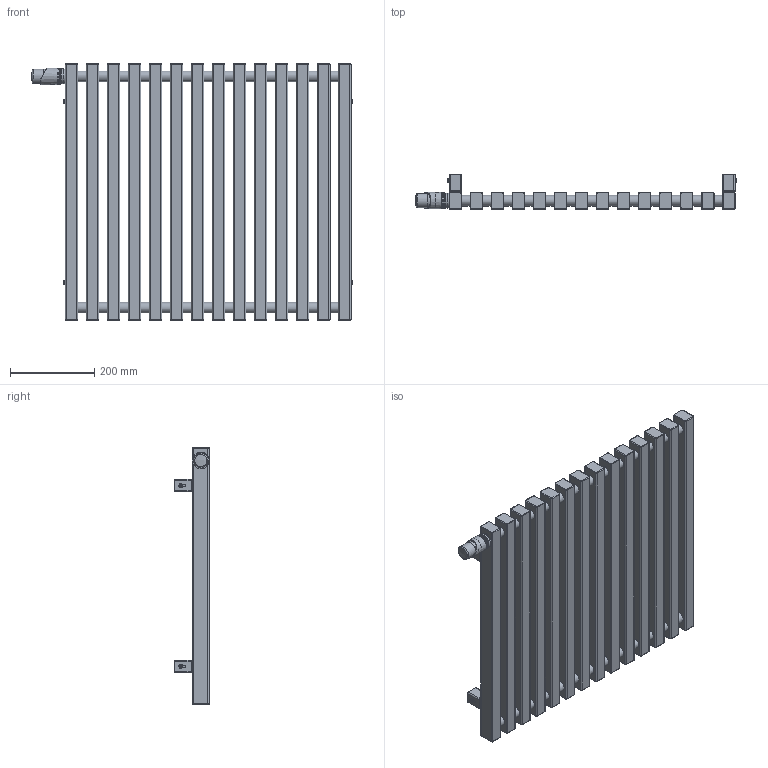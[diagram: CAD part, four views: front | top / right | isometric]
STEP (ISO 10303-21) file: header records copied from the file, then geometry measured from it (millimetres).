
FILE_DESCRIPTION((''),'2;1');
FILE_NAME('Z:\R\G\P\RGP029 - Grzejnik Triga ( ZET)\Work\Inventor\Triga v1.1\Marketing\AutoCad 3D\G-TR-XX-MK-XX-61-68-VL.stp','2012-07-26T13:31:58',('DawPi'),(''),'Autodesk Inventor 2012','Autodesk Inventor 2012','');
FILE_SCHEMA(('AUTOMOTIVE_DESIGN { 1 0 10303 214 1 1 1 1 }'));
Length unit declared in the file: millimetre
Products named in the file (4): G-TR-XX-MK-XX-61-68-VL; MMT42; A40300A
Assembly tree (6 placements, depth 2):
  G-TR-XX-MK-XX-61-68-VL
    G-TR-XX-MK-XX-61-68-VL
    MMT42  x4
    A40300A
Bounding box: 762.26 x 82 x 610 mm (x, y, z)
Volume: 10651623.1 mm3; surface area: 1251576.6 mm2
Topology: 6 solids, 7 shells, 657 faces, 1454 edges, 879 vertices
Faces by surface type: cylinder 273, plane 231, bspline 113, cone 25, torus 14, sphere 1
Full cylindrical faces by diameter (mm): 4 x1, 4.134 x4, 4.509 x4, 5 x1, 10 x5, 11.445 x1, 12 x4, 18.631 x2, 25 x26, 26.211 x1, 28 x1, 30 x1, 31 x1, 33.8 x1, 34 x2, 35 x3, 36 x4, 38 x3
Entity records: 22620 total; most frequent: CARTESIAN_POINT 11322, DIRECTION 2494, ORIENTED_EDGE 2100, EDGE_CURVE 1050, AXIS2_PLACEMENT_3D 1029, EDGE_LOOP 680, VERTEX_POINT 664, CIRCLE 608
